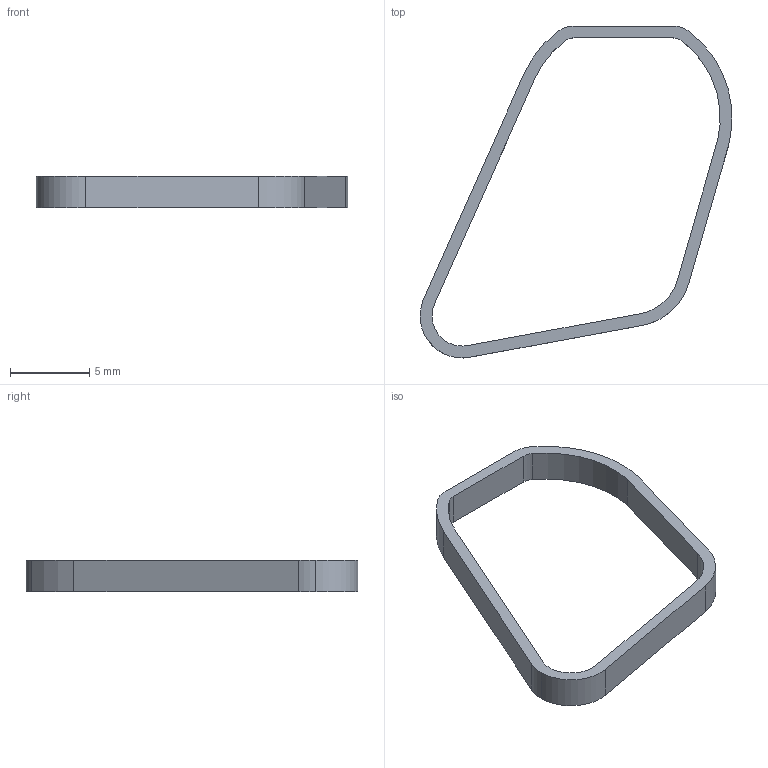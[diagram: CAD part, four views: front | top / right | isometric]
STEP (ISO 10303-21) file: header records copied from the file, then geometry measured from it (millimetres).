
FILE_DESCRIPTION (( 'STEP AP203' ), '1' );
FILE_NAME ('Ziptie.step', '2026-08-22T11:39:06', ( '' ), ( '' ), 'SwSTEP 2.0', 'SolidWorks 2026', '' );
FILE_SCHEMA (( 'CONFIG_CONTROL_DESIGN' ));
Length unit declared in the file: millimetre
Products named in the file (1): Ziptie
Bounding box: 19.67 x 20.95 x 2 mm (x, y, z)
Volume: 94.8 mm3; surface area: 347.6 mm2
Topology: 1 solids, 1 shells, 24 faces, 66 edges, 44 vertices
Faces by surface type: cylinder 14, plane 10
Entity records: 859 total; most frequent: DIRECTION 144, CARTESIAN_POINT 135, ORIENTED_EDGE 132, EDGE_CURVE 66, AXIS2_PLACEMENT_3D 53, VERTEX_POINT 44, LINE 38, VECTOR 38
